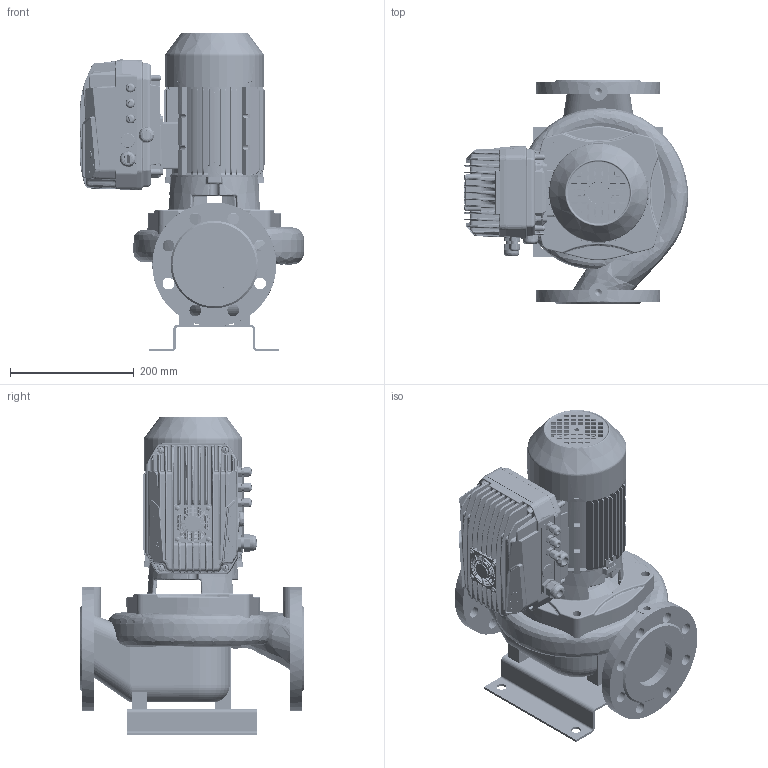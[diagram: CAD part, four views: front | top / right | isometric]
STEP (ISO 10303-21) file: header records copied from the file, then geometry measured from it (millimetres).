
FILE_DESCRIPTION(('STEP AP214'),'1');
FILE_NAME('export.stp','2022-08-29T11:35:49',(' '),(' '),'Spatial InterOp 3D',' ',' ');
FILE_SCHEMA(('AUTOMOTIVE_DESIGN { 1 0 10303 214 1 1 1 1 }'));
Length unit declared in the file: millimetre
Products named in the file (47): V_AdapMida205_407; 210588; DIN_7985-M5X8; W_L80A4_XX_KP80; V_PPL80A; V_JALKA35973; V_TLL65AB80A1102; 160022; 160003; V_MKP80-2_F19; 160141; 160137; 160138; 160139; 160140; Koura_Ale_M5; Plug_Blind_M20; Sealing_Plug_M20; DIN_7985-M5X12; 480032; 480031___; 480034; 480033___; 160133; MIDA_180deg; BASE_MIDA_NASTEC_89; 3005020100_AF0_157; PRT0001; PRT0002; PRT0003; PRT0005; PRT0006; PRT0007; V4-25--_-_U7687_PZ_AF0_5; V4-25--_-_U7687_PZ_AF1_5; V4-25--_-_U7687_PZ_AF2_5; V4-25--_-_U7687_PZ_AF3_5; V5-30--_-_U7687_PZ_AF0_5; V5-30--_-_U7687_PZ_AF1_5; V5-30--_-_U7687_PZ_AF2_5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
Assembly tree (50 placements, depth 4):
  W_L80A4_XX_KP80
    V_AdapMida205_407
      210588
      DIN_7985-M5X8  x2
    V_PPL80A
    V_JALKA35973
    V_TLL65AB80A1102
    V_MKP80-2_F19
      160022
        160003
      160141
        160137
        160138
        160139
        160140
        Koura_Ale_M5
        Plug_Blind_M20
        Sealing_Plug_M20
        DIN_7985-M5X8
        DIN_7985-M5X12  x4
      480032
        480031___
      480034
        480033___
      160133
    Mida205
      MIDA_180deg
        BASE_MIDA_NASTEC_89
        3005020100_AF0_157
        PRT0001
        PRT0002
        PRT0003
        PRT0005
        PRT0006
        PRT0007
        V4-25--_-_U7687_PZ_AF0_5
        V4-25--_-_U7687_PZ_AF1_5
        V4-25--_-_U7687_PZ_AF2_5
        V4-25--_-_U7687_PZ_AF3_5
        V5-30--_-_U7687_PZ_AF0_5
        V5-30--_-_U7687_PZ_AF1_5
        V5-30--_-_U7687_PZ_AF2_5
        V5-30--_-_U7687_PZ_5
        2001300200_32
        TASTIERA_MIDA_2_44
        ETICHETTA_MIDA_9
        TAPPO_PRESSACAVO_M20_5
Bounding box: 362 x 360 x 514.11 mm (x, y, z)
Volume: 8056769.2 mm3; surface area: 1747249.7 mm2
Topology: 41 solids, 42 shells, 6671 faces, 17242 edges, 10628 vertices
Faces by surface type: plane 2307, cylinder 2120, bspline 1482, cone 404, torus 294, sphere 64
Entity records: 337008 total; most frequent: CARTESIAN_POINT 157959, ORIENTED_EDGE 33818, DIRECTION 24715, EDGE_CURVE 16913, VERTEX_POINT 10501, AXIS2_PLACEMENT_3D 9041, EDGE_LOOP 7105, LINE 6633
